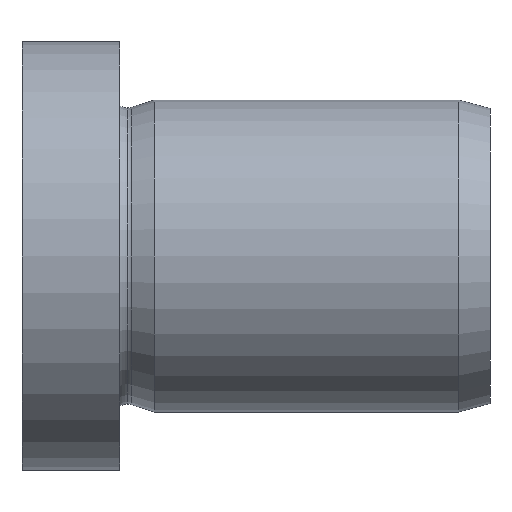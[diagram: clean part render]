
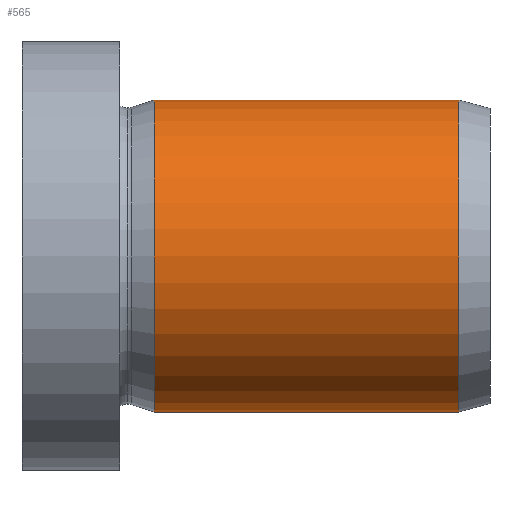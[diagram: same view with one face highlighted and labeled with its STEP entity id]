
A CAD part, left-side view. The second image highlights one B-rep face of the part: STEP entity #565.
In plain terms, the highlighted cylindrical face has radius 4 mm (diameter 8 mm), a partial arc.
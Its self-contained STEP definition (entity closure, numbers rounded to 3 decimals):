
#5 = VECTOR ( 'NONE', #359, 1000. ) ;
#24 = CARTESIAN_POINT ( 'NONE',  ( 0., 0.8, -4. ) ) ;
#25 = ORIENTED_EDGE ( 'NONE', *, *, #653, .F. ) ;
#38 = DIRECTION ( 'NONE',  ( 0., 0., -1. ) ) ;
#46 = VERTEX_POINT ( 'NONE', #52 ) ;
#49 = DIRECTION ( 'NONE',  ( 0., 0., -1. ) ) ;
#52 = CARTESIAN_POINT ( 'NONE',  ( 0., 8.604, -4. ) ) ;
#59 = LINE ( 'NONE', #361, #5 ) ;
#62 = CARTESIAN_POINT ( 'NONE',  ( 0., 8.604, 4. ) ) ;
#77 = EDGE_CURVE ( 'NONE', #445, #647, #632, .T. ) ;
#94 = ORIENTED_EDGE ( 'NONE', *, *, #299, .T. ) ;
#138 = FACE_OUTER_BOUND ( 'NONE', #181, .T. ) ;
#150 = EDGE_CURVE ( 'NONE', #445, #46, #413, .T. ) ;
#181 = EDGE_LOOP ( 'NONE', ( #241, #598, #94, #25 ) ) ;
#193 = CARTESIAN_POINT ( 'NONE',  ( 0., 0., 0. ) ) ;
#208 = DIRECTION ( 'NONE',  ( 0., -1., 0. ) ) ;
#212 = AXIS2_PLACEMENT_3D ( 'NONE', #395, #208, #49 ) ;
#241 = ORIENTED_EDGE ( 'NONE', *, *, #77, .F. ) ;
#255 = VERTEX_POINT ( 'NONE', #24 ) ;
#299 = EDGE_CURVE ( 'NONE', #46, #255, #59, .T. ) ;
#359 = DIRECTION ( 'NONE',  ( 0., -1., 0. ) ) ;
#361 = CARTESIAN_POINT ( 'NONE',  ( 0., 0., -4. ) ) ;
#395 = CARTESIAN_POINT ( 'NONE',  ( 0., 0.8, 0. ) ) ;
#413 = CIRCLE ( 'NONE', #514, 4. ) ;
#415 = DIRECTION ( 'NONE',  ( 0., -1., 0. ) ) ;
#445 = VERTEX_POINT ( 'NONE', #62 ) ;
#447 = CYLINDRICAL_SURFACE ( 'NONE', #633, 4. ) ;
#468 = CARTESIAN_POINT ( 'NONE',  ( 0., 0., 4. ) ) ;
#475 = CARTESIAN_POINT ( 'NONE',  ( 0., 8.604, 0. ) ) ;
#495 = DIRECTION ( 'NONE',  ( 0., -1., 0. ) ) ;
#514 = AXIS2_PLACEMENT_3D ( 'NONE', #475, #415, #628 ) ;
#537 = VECTOR ( 'NONE', #570, 1000. ) ;
#565 = ADVANCED_FACE ( 'NONE', ( #138 ), #447, .T. ) ;
#570 = DIRECTION ( 'NONE',  ( 0., -1., 0. ) ) ;
#598 = ORIENTED_EDGE ( 'NONE', *, *, #150, .T. ) ;
#614 = CIRCLE ( 'NONE', #212, 4. ) ;
#628 = DIRECTION ( 'NONE',  ( 0., 0., -1. ) ) ;
#632 = LINE ( 'NONE', #468, #537 ) ;
#633 = AXIS2_PLACEMENT_3D ( 'NONE', #193, #495, #38 ) ;
#647 = VERTEX_POINT ( 'NONE', #660 ) ;
#653 = EDGE_CURVE ( 'NONE', #647, #255, #614, .T. ) ;
#660 = CARTESIAN_POINT ( 'NONE',  ( 0., 0.8, 4. ) ) ;
